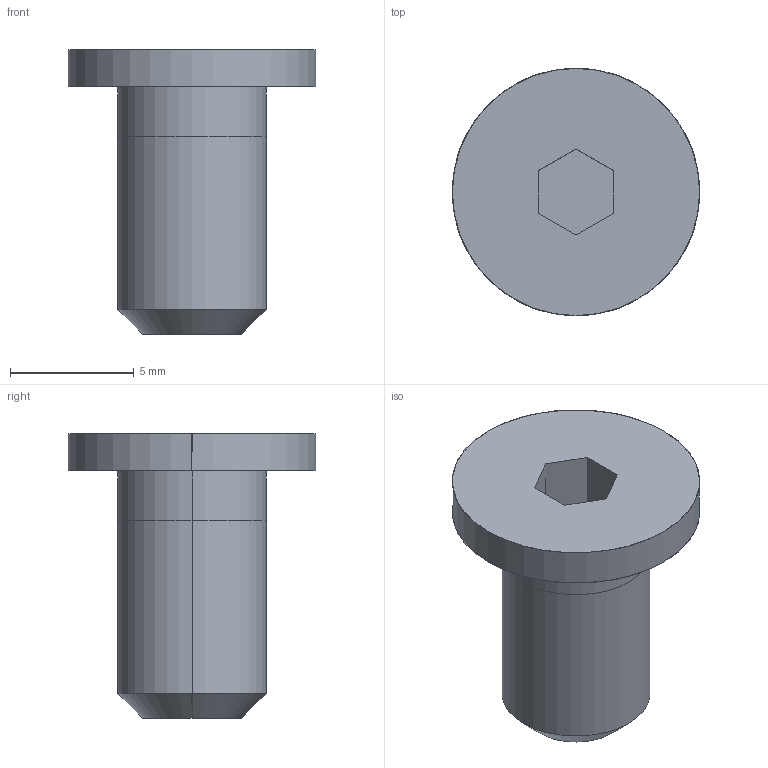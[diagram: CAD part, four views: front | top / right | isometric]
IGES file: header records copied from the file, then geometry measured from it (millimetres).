
Global section: file name: E:\UnigraphicsGraphicData\MISUMI_PRESS-PARTS\IGES\3d_cbss6-10_03501_r00.igs; native system: NX V5.0; preprocessor: UGS NX IGES V5.0; author: MISUMI; date: 20110105.160202; units: millimetre
Bounding box: 10 x 10 x 11.5 mm (x, y, z)
Surface area: 422.4 mm2 (no closed solid volume)
Topology: 0 solids, 0 shells, 18 faces, 100 edges, 100 vertices
Faces by surface type: bspline 18
